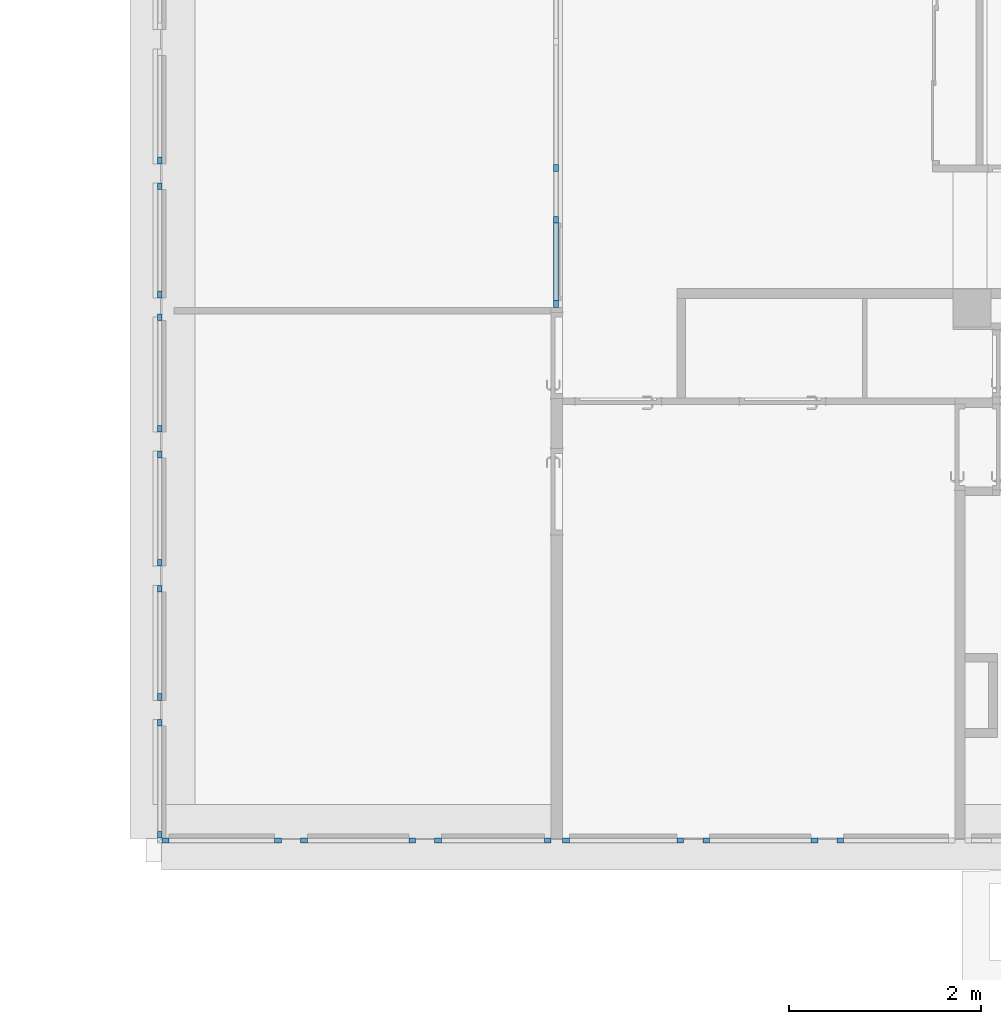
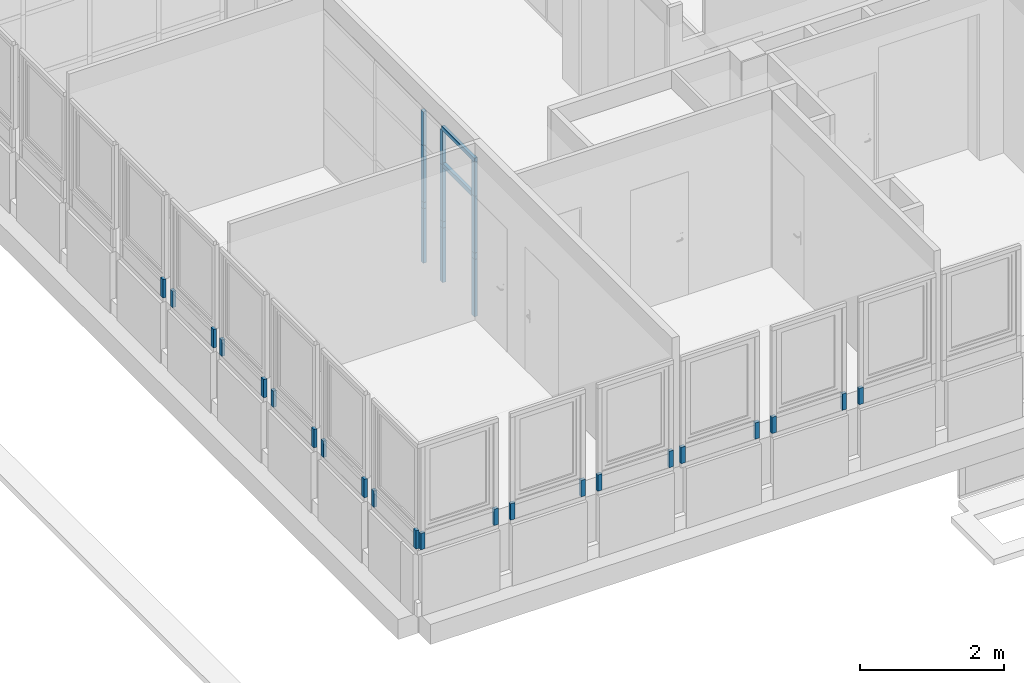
# One storey, part 14 of 97: 36 members, 13 elements without a shape of their own.
"""IFC4 building model written with IfcOpenShell, lengths in metres."""

from ifc_helpers import new_model, entity, si_unit, converted_unit, derived_unit, direction, frame, origin, place, context, subcontext, project, spatial, indexed_curve, outline, extrude, source, transform, mapped, material, type_object, type_shapes, element, aggregate, save


model = new_model("IFC4")

# Units and contexts
model_context = context("Model", 3, precision=1e-05, world=origin(), true_north=direction((6.12303176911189e-17, 1.0)))
body_context = subcontext(model_context, "Body", "Model", "MODEL_VIEW")
ifc_project = project(units=[si_unit("LENGTHUNIT", "METRE"), si_unit("AREAUNIT", "SQUARE_METRE"), si_unit("VOLUMEUNIT", "CUBIC_METRE"), converted_unit("PLANEANGLEUNIT", "DEGREE", entity("IfcRatioMeasure", 0.0174532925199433), si_unit("PLANEANGLEUNIT", "RADIAN"), dimensions=[0, 0, 0, 0, 0, 0, 0]), si_unit("MASSUNIT", "GRAM", prefix="KILO"), derived_unit("MASSDENSITYUNIT", [(si_unit("MASSUNIT", "GRAM", prefix="KILO"), 1), (si_unit("LENGTHUNIT", "METRE"), -3)]), derived_unit("MOMENTOFINERTIAUNIT", [(si_unit("LENGTHUNIT", "METRE"), 4)]), si_unit("TIMEUNIT", "SECOND"), si_unit("FREQUENCYUNIT", "HERTZ"), si_unit("THERMODYNAMICTEMPERATUREUNIT", "DEGREE_CELSIUS"), derived_unit("THERMALTRANSMITTANCEUNIT", [(si_unit("MASSUNIT", "GRAM", prefix="KILO"), 1), (si_unit("THERMODYNAMICTEMPERATUREUNIT", "KELVIN"), -1), (si_unit("TIMEUNIT", "SECOND"), -3)]), derived_unit("VOLUMETRICFLOWRATEUNIT", [(si_unit("LENGTHUNIT", "METRE"), 3), (si_unit("TIMEUNIT", "SECOND"), -1)]), si_unit("ELECTRICCURRENTUNIT", "AMPERE"), si_unit("ELECTRICVOLTAGEUNIT", "VOLT"), si_unit("POWERUNIT", "WATT"), si_unit("FORCEUNIT", "NEWTON", prefix="KILO"), si_unit("ILLUMINANCEUNIT", "LUX"), si_unit("LUMINOUSFLUXUNIT", "LUMEN"), si_unit("LUMINOUSINTENSITYUNIT", "CANDELA"), derived_unit("USERDEFINED", [(si_unit("MASSUNIT", "GRAM", prefix="KILO"), -1), (si_unit("LENGTHUNIT", "METRE"), -2), (si_unit("TIMEUNIT", "SECOND"), 3), (si_unit("LUMINOUSFLUXUNIT", "LUMEN"), 1)]), derived_unit("LINEARVELOCITYUNIT", [(si_unit("LENGTHUNIT", "METRE"), 1), (si_unit("TIMEUNIT", "SECOND"), -1)]), si_unit("PRESSUREUNIT", "PASCAL"), derived_unit("USERDEFINED", [(si_unit("LENGTHUNIT", "METRE"), -2), (si_unit("MASSUNIT", "GRAM", prefix="KILO"), 1), (si_unit("TIMEUNIT", "SECOND"), -2)]), derived_unit("LINEARFORCEUNIT", [(si_unit("MASSUNIT", "GRAM", prefix="KILO"), 1), (si_unit("LENGTHUNIT", "METRE"), 1), (si_unit("TIMEUNIT", "SECOND"), -2), (si_unit("LENGTHUNIT", "METRE"), -1)]), derived_unit("PLANARFORCEUNIT", [(si_unit("MASSUNIT", "GRAM", prefix="KILO"), 1), (si_unit("LENGTHUNIT", "METRE"), 1), (si_unit("TIMEUNIT", "SECOND"), -2), (si_unit("LENGTHUNIT", "METRE"), -2)])], contexts=[model_context])

# Site, building, storey
site_placement = place(None, origin())
site = spatial("IfcSite", under=ifc_project, at=site_placement, Name="Default", CompositionType="ELEMENT")
building_placement = place(site_placement, origin())
building = spatial("IfcBuilding", under=site, at=building_placement, Name="HOTEL CONSULAIRE BOULOGNE SUR MER", CompositionType="ELEMENT")
storey_placement = place(building_placement, frame((0.0, 0.0, 3.62152697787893)))
storey = spatial("IfcBuildingStorey", under=building, at=storey_placement, Name="Niveau 1", CompositionType="ELEMENT", Elevation=3.62152697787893)

# Curtain wall, member
curtain_wall_type = type_object("IfcCurtainWallType", Name="Mur-rideau:Simple panneau", PredefinedType="NOTDEFINED")
curtain_wall_1_placement = place(storey_placement, frame((0.0, 0.0, -3.62152697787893)))
curtain_wall_1 = element("IfcCurtainWall", 1, at=curtain_wall_1_placement, inside=storey, type_object=curtain_wall_type, Name="Mur-rideau:Simple panneau", ObjectType="Mur-rideau:Simple panneau", PredefinedType="NOTDEFINED")
ifc_material_1 = material(Name="PVC - Blanc", Category="Plastique")
member_type_1 = type_object("IfcMemberType", Name="Meneau rectangulaire:50 x 35", PredefinedType="MULLION", material=ifc_material_1)
shared_shape_1 = source(origin(), body_context, "Body", "SweptSolid", [
    extrude(outline(indexed_curve([(-0.025, -0.035), (0.025, -0.035), (0.025, 0.035), (-0.025, 0.035), (-0.025, -0.035)], self_intersect=False)), frame((-0.035, -0.025, -0.278), z_axis=(0.0, 0.0, 1.0), x_axis=(0.0, -1.0, 0.0)), (0.0, 0.0, 1.0), 0.278),
])
type_shapes(member_type_1, [shared_shape_1])
member_1_placement = place(storey_placement, frame((-13.7870998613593, -22.7114499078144, 0.861612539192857), z_axis=(0.0, 0.0, -1.0), x_axis=(0.0, 1.0, 0.0)))
member_1 = element("IfcMember", 2, at=member_1_placement, type_object=member_type_1, material=ifc_material_1, Name="Meneau rectangulaire:50 x 35", ObjectType="Meneau rectangulaire:50 x 35", PredefinedType="MULLION", context=body_context, shape_type="MappedRepresentation", body=[
    mapped(shared_shape_1, transform((0.0, 0.0, 0.0), scale=1.0)),
])

curtain_wall_2_placement = place(storey_placement, frame((0.0, 0.0, -3.62152697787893)))
curtain_wall_2 = element("IfcCurtainWall", 3, at=curtain_wall_2_placement, inside=storey, type_object=curtain_wall_type, Name="Mur-rideau:Simple panneau", ObjectType="Mur-rideau:Simple panneau", PredefinedType="NOTDEFINED")
member_2_placement = place(storey_placement, frame((-13.7870998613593, -24.0792596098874, 0.861612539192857), z_axis=(0.0, 0.0, -1.0), x_axis=(0.0, 1.0, 0.0)))
member_2 = element("IfcMember", 4, at=member_2_placement, type_object=member_type_1, material=ifc_material_1, Name="Meneau rectangulaire:50 x 35", ObjectType="Meneau rectangulaire:50 x 35", PredefinedType="MULLION", context=body_context, shape_type="MappedRepresentation", body=[
    mapped(shared_shape_1, transform((0.0, 0.0, 0.0), scale=1.0)),
])

curtain_wall_3_placement = place(storey_placement, frame((0.0, 0.0, -3.62152697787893)))
curtain_wall_3 = element("IfcCurtainWall", 5, at=curtain_wall_3_placement, inside=storey, type_object=curtain_wall_type, Name="Mur-rideau:Simple panneau", ObjectType="Mur-rideau:Simple panneau", PredefinedType="NOTDEFINED")
member_3_placement = place(storey_placement, frame((-13.7870998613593, -25.5114499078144, 0.861612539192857), z_axis=(0.0, 0.0, -1.0), x_axis=(0.0, 1.0, 0.0)))
member_3 = element("IfcMember", 6, at=member_3_placement, type_object=member_type_1, material=ifc_material_1, Name="Meneau rectangulaire:50 x 35", ObjectType="Meneau rectangulaire:50 x 35", PredefinedType="MULLION", context=body_context, shape_type="MappedRepresentation", body=[
    mapped(shared_shape_1, transform((0.0, 0.0, 0.0), scale=1.0)),
])

curtain_wall_4_placement = place(storey_placement, frame((0.0, 0.0, -3.62152697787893)))
curtain_wall_4 = element("IfcCurtainWall", 7, at=curtain_wall_4_placement, inside=storey, type_object=curtain_wall_type, Name="Mur-rideau:Simple panneau", ObjectType="Mur-rideau:Simple panneau", PredefinedType="NOTDEFINED")
member_4_placement = place(storey_placement, frame((-13.7870998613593, -28.3114499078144, 0.861612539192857), z_axis=(0.0, 0.0, -1.0), x_axis=(0.0, 1.0, 0.0)))
member_4 = element("IfcMember", 8, at=member_4_placement, type_object=member_type_1, material=ifc_material_1, Name="Meneau rectangulaire:50 x 35", ObjectType="Meneau rectangulaire:50 x 35", PredefinedType="MULLION", context=body_context, shape_type="MappedRepresentation", body=[
    mapped(shared_shape_1, transform((0.0, 0.0, 0.0), scale=1.0)),
])

curtain_wall_5_placement = place(storey_placement, frame((0.0, 0.0, -3.62152697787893)))
curtain_wall_5 = element("IfcCurtainWall", 9, at=curtain_wall_5_placement, inside=storey, type_object=curtain_wall_type, Name="Mur-rideau:Simple panneau", ObjectType="Mur-rideau:Simple panneau", PredefinedType="NOTDEFINED")
member_5_placement = place(storey_placement, frame((-13.7870998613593, -26.9114499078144, 0.861612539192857), z_axis=(0.0, 0.0, -1.0), x_axis=(0.0, 1.0, 0.0)))
member_5 = element("IfcMember", 10, at=member_5_placement, type_object=member_type_1, material=ifc_material_1, Name="Meneau rectangulaire:50 x 35", ObjectType="Meneau rectangulaire:50 x 35", PredefinedType="MULLION", context=body_context, shape_type="MappedRepresentation", body=[
    mapped(shared_shape_1, transform((0.0, 0.0, 0.0), scale=1.0)),
])

curtain_wall_6_placement = place(storey_placement, frame((0.0, 0.0, -3.62152697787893)))
curtain_wall_6 = element("IfcCurtainWall", 11, at=curtain_wall_6_placement, inside=storey, type_object=curtain_wall_type, Name="Mur-rideau:Simple panneau", ObjectType="Mur-rideau:Simple panneau", PredefinedType="NOTDEFINED")
member_6_placement = place(storey_placement, frame((-13.7870998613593, -29.5501047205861, 0.861612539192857), z_axis=(0.0, 0.0, -1.0), x_axis=(-1.0, 0.0, 0.0)))
member_6 = element("IfcMember", 12, at=member_6_placement, type_object=member_type_1, material=ifc_material_1, Name="Meneau rectangulaire:50 x 35", ObjectType="Meneau rectangulaire:50 x 35", PredefinedType="MULLION", context=body_context, shape_type="MappedRepresentation", body=[
    mapped(shared_shape_1, transform((0.0, 0.0, 0.0), scale=1.0)),
])

curtain_wall_7_placement = place(storey_placement, frame((0.0, 0.0, -3.62152697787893)))
curtain_wall_7 = element("IfcCurtainWall", 13, at=curtain_wall_7_placement, inside=storey, type_object=curtain_wall_type, Name="Mur-rideau:Simple panneau", ObjectType="Mur-rideau:Simple panneau", PredefinedType="NOTDEFINED")
member_7_placement = place(storey_placement, frame((-12.3414199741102, -29.5501047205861, 0.861612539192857), z_axis=(0.0, 0.0, -1.0), x_axis=(-1.0, 0.0, 0.0)))
member_7 = element("IfcMember", 14, at=member_7_placement, type_object=member_type_1, material=ifc_material_1, Name="Meneau rectangulaire:50 x 35", ObjectType="Meneau rectangulaire:50 x 35", PredefinedType="MULLION", context=body_context, shape_type="MappedRepresentation", body=[
    mapped(shared_shape_1, transform((0.0, 0.0, 0.0), scale=1.0)),
])

curtain_wall_8_placement = place(storey_placement, frame((0.0, 0.0, -3.62152697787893)))
curtain_wall_8 = element("IfcCurtainWall", 15, at=curtain_wall_8_placement, inside=storey, type_object=curtain_wall_type, Name="Mur-rideau:Simple panneau", ObjectType="Mur-rideau:Simple panneau", PredefinedType="NOTDEFINED")
member_8_placement = place(storey_placement, frame((-10.9414199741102, -29.5501047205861, 0.861612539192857), z_axis=(0.0, 0.0, -1.0), x_axis=(-1.0, 0.0, 0.0)))
member_8 = element("IfcMember", 16, at=member_8_placement, type_object=member_type_1, material=ifc_material_1, Name="Meneau rectangulaire:50 x 35", ObjectType="Meneau rectangulaire:50 x 35", PredefinedType="MULLION", context=body_context, shape_type="MappedRepresentation", body=[
    mapped(shared_shape_1, transform((0.0, 0.0, 0.0), scale=1.0)),
])

curtain_wall_9_placement = place(storey_placement, frame((0.0, 0.0, -3.62152697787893)))
curtain_wall_9 = element("IfcCurtainWall", 17, at=curtain_wall_9_placement, inside=storey, type_object=curtain_wall_type, Name="Mur-rideau:Simple panneau", ObjectType="Mur-rideau:Simple panneau", PredefinedType="NOTDEFINED")
member_9_placement = place(storey_placement, frame((-9.60440198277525, -29.5501047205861, 0.861612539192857), z_axis=(0.0, 0.0, -1.0), x_axis=(-1.0, 0.0, 0.0)))
member_9 = element("IfcMember", 18, at=member_9_placement, type_object=member_type_1, material=ifc_material_1, Name="Meneau rectangulaire:50 x 35", ObjectType="Meneau rectangulaire:50 x 35", PredefinedType="MULLION", context=body_context, shape_type="MappedRepresentation", body=[
    mapped(shared_shape_1, transform((0.0, 0.0, 0.0), scale=1.0)),
])

curtain_wall_10_placement = place(storey_placement, frame((0.0, 0.0, -3.62152697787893)))
curtain_wall_10 = element("IfcCurtainWall", 19, at=curtain_wall_10_placement, inside=storey, type_object=curtain_wall_type, Name="Mur-rideau:Simple panneau", ObjectType="Mur-rideau:Simple panneau", PredefinedType="NOTDEFINED")
member_10_placement = place(storey_placement, frame((-8.14141997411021, -29.5501047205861, 0.861612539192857), z_axis=(0.0, 0.0, -1.0), x_axis=(-1.0, 0.0, 0.0)))
member_10 = element("IfcMember", 20, at=member_10_placement, type_object=member_type_1, material=ifc_material_1, Name="Meneau rectangulaire:50 x 35", ObjectType="Meneau rectangulaire:50 x 35", PredefinedType="MULLION", context=body_context, shape_type="MappedRepresentation", body=[
    mapped(shared_shape_1, transform((0.0, 0.0, 0.0), scale=1.0)),
])

curtain_wall_11_placement = place(storey_placement, frame((0.0, 0.0, -3.62152697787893)))
curtain_wall_11 = element("IfcCurtainWall", 21, at=curtain_wall_11_placement, inside=storey, type_object=curtain_wall_type, Name="Mur-rideau:Simple panneau", ObjectType="Mur-rideau:Simple panneau", PredefinedType="NOTDEFINED")
member_11_placement = place(storey_placement, frame((-6.74141997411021, -29.5501047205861, 0.861612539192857), z_axis=(0.0, 0.0, -1.0), x_axis=(-1.0, 0.0, 0.0)))
member_11 = element("IfcMember", 22, at=member_11_placement, type_object=member_type_1, material=ifc_material_1, Name="Meneau rectangulaire:50 x 35", ObjectType="Meneau rectangulaire:50 x 35", PredefinedType="MULLION", context=body_context, shape_type="MappedRepresentation", body=[
    mapped(shared_shape_1, transform((0.0, 0.0, 0.0), scale=1.0)),
])
aggregate(curtain_wall_11, [member_11])

curtain_wall_12_placement = place(storey_placement, frame((0.0, 0.0, -3.62152697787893)))
curtain_wall_12 = element("IfcCurtainWall", 23, at=curtain_wall_12_placement, inside=storey, type_object=curtain_wall_type, Name="Mur-rideau:Simple panneau", ObjectType="Mur-rideau:Simple panneau", PredefinedType="NOTDEFINED")
member_type_2 = type_object("IfcMemberType", Name="Meneau rectangulaire:50 x 35", PredefinedType="MULLION", material=ifc_material_1)
shared_shape_2 = source(origin(), body_context, "Body", "SweptSolid", [
    extrude(outline(indexed_curve([(-0.025, -0.035), (0.025, -0.035), (0.025, 0.035), (-0.025, 0.035), (-0.025, -0.035)], self_intersect=False)), frame((-0.035, -0.025, -0.313), z_axis=(0.0, 0.0, 1.0), x_axis=(0.0, -1.0, 0.0)), (0.0, 0.0, 1.0), 0.313),
])
type_shapes(member_type_2, [shared_shape_2])
member_12_placement = place(storey_placement, frame((-13.7870998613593, -22.5114499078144, 1.17461253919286), z_axis=(0.0, 0.0, 1.0), x_axis=(0.0, -1.0, 0.0)))
member_12 = element("IfcMember", 24, at=member_12_placement, type_object=member_type_2, material=ifc_material_1, Name="Meneau rectangulaire:50 x 35", ObjectType="Meneau rectangulaire:50 x 35", PredefinedType="MULLION", context=body_context, shape_type="MappedRepresentation", body=[
    mapped(shared_shape_2, transform((0.0, 0.0, 0.0), scale=1.0)),
])
aggregate(curtain_wall_12, [member_12])

# Member
member_13_placement = place(storey_placement, frame((-13.7870998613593, -23.9114499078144, 1.17461253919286), z_axis=(0.0, 0.0, 1.0), x_axis=(0.0, -1.0, 0.0)))
member_13 = element("IfcMember", 25, at=member_13_placement, type_object=member_type_2, material=ifc_material_1, Name="Meneau rectangulaire:50 x 35", ObjectType="Meneau rectangulaire:50 x 35", PredefinedType="MULLION", context=body_context, shape_type="MappedRepresentation", body=[
    mapped(shared_shape_2, transform((0.0, 0.0, 0.0), scale=1.0)),
])

aggregate(curtain_wall_1, [member_1, member_13])

member_14_placement = place(storey_placement, frame((-13.7870998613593, -25.3114499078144, 1.17461253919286), z_axis=(0.0, 0.0, 1.0), x_axis=(0.0, -1.0, 0.0)))
member_14 = element("IfcMember", 26, at=member_14_placement, type_object=member_type_2, material=ifc_material_1, Name="Meneau rectangulaire:50 x 35", ObjectType="Meneau rectangulaire:50 x 35", PredefinedType="MULLION", context=body_context, shape_type="MappedRepresentation", body=[
    mapped(shared_shape_2, transform((0.0, 0.0, 0.0), scale=1.0)),
])

aggregate(curtain_wall_2, [member_2, member_14])

member_15_placement = place(storey_placement, frame((-13.7870998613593, -26.7114499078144, 1.17461253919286), z_axis=(0.0, 0.0, 1.0), x_axis=(0.0, -1.0, 0.0)))
member_15 = element("IfcMember", 27, at=member_15_placement, type_object=member_type_2, material=ifc_material_1, Name="Meneau rectangulaire:50 x 35", ObjectType="Meneau rectangulaire:50 x 35", PredefinedType="MULLION", context=body_context, shape_type="MappedRepresentation", body=[
    mapped(shared_shape_2, transform((0.0, 0.0, 0.0), scale=1.0)),
])

aggregate(curtain_wall_3, [member_3, member_15])

member_16_placement = place(storey_placement, frame((-13.7870998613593, -29.5501047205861, 1.17461253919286), z_axis=(0.0, 0.0, 1.0), x_axis=(0.0, -1.0, 0.0)))
member_16 = element("IfcMember", 28, at=member_16_placement, type_object=member_type_2, material=ifc_material_1, Name="Meneau rectangulaire:50 x 35", ObjectType="Meneau rectangulaire:50 x 35", PredefinedType="MULLION", context=body_context, shape_type="MappedRepresentation", body=[
    mapped(shared_shape_2, transform((0.0, 0.0, 0.0), scale=1.0)),
])

aggregate(curtain_wall_4, [member_4, member_16])

member_17_placement = place(storey_placement, frame((-13.7870998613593, -28.1114499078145, 1.17461253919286), z_axis=(0.0, 0.0, 1.0), x_axis=(0.0, -1.0, 0.0)))
member_17 = element("IfcMember", 29, at=member_17_placement, type_object=member_type_2, material=ifc_material_1, Name="Meneau rectangulaire:50 x 35", ObjectType="Meneau rectangulaire:50 x 35", PredefinedType="MULLION", context=body_context, shape_type="MappedRepresentation", body=[
    mapped(shared_shape_2, transform((0.0, 0.0, 0.0), scale=1.0)),
])

aggregate(curtain_wall_5, [member_5, member_17])

member_type_3 = type_object("IfcMemberType", Name="Meneau rectangulaire:50 x 35", PredefinedType="MULLION", material=ifc_material_1)
shared_shape_3 = source(origin(), body_context, "Body", "SweptSolid", [
    extrude(outline(indexed_curve([(-0.025, -0.035), (0.025, -0.035), (0.025, 0.035), (-0.025, 0.035), (-0.025, -0.035)], self_intersect=False)), frame((-0.035, -0.025, -0.278), z_axis=(0.0, 0.0, 1.0), x_axis=(0.0, -1.0, 0.0)), (0.0, 0.0, 1.0), 0.278),
])
type_shapes(member_type_3, [shared_shape_3])
member_18_placement = place(storey_placement, frame((-12.5414199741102, -29.5501047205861, 1.13961253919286)))
member_18 = element("IfcMember", 30, at=member_18_placement, type_object=member_type_3, material=ifc_material_1, Name="Meneau rectangulaire:50 x 35", ObjectType="Meneau rectangulaire:50 x 35", PredefinedType="MULLION", context=body_context, shape_type="MappedRepresentation", body=[
    mapped(shared_shape_3, transform((0.0, 0.0, 0.0), scale=1.0)),
])

aggregate(curtain_wall_6, [member_6, member_18])

member_19_placement = place(storey_placement, frame((-11.1414199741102, -29.5501047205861, 1.13961253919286)))
member_19 = element("IfcMember", 31, at=member_19_placement, type_object=member_type_3, material=ifc_material_1, Name="Meneau rectangulaire:50 x 35", ObjectType="Meneau rectangulaire:50 x 35", PredefinedType="MULLION", context=body_context, shape_type="MappedRepresentation", body=[
    mapped(shared_shape_3, transform((0.0, 0.0, 0.0), scale=1.0)),
])

aggregate(curtain_wall_7, [member_7, member_19])

member_20_placement = place(storey_placement, frame((-9.72440198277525, -29.5501047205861, 1.13961253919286)))
member_20 = element("IfcMember", 32, at=member_20_placement, type_object=member_type_3, material=ifc_material_1, Name="Meneau rectangulaire:50 x 35", ObjectType="Meneau rectangulaire:50 x 35", PredefinedType="MULLION", context=body_context, shape_type="MappedRepresentation", body=[
    mapped(shared_shape_3, transform((0.0, 0.0, 0.0), scale=1.0)),
])

aggregate(curtain_wall_8, [member_8, member_20])

member_21_placement = place(storey_placement, frame((-8.3414199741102, -29.5501047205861, 1.13961253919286)))
member_21 = element("IfcMember", 33, at=member_21_placement, type_object=member_type_3, material=ifc_material_1, Name="Meneau rectangulaire:50 x 35", ObjectType="Meneau rectangulaire:50 x 35", PredefinedType="MULLION", context=body_context, shape_type="MappedRepresentation", body=[
    mapped(shared_shape_3, transform((0.0, 0.0, 0.0), scale=1.0)),
])

aggregate(curtain_wall_9, [member_9, member_21])

member_22_placement = place(storey_placement, frame((-6.94141997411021, -29.5501047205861, 1.13961253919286)))
member_22 = element("IfcMember", 34, at=member_22_placement, type_object=member_type_3, material=ifc_material_1, Name="Meneau rectangulaire:50 x 35", ObjectType="Meneau rectangulaire:50 x 35", PredefinedType="MULLION", context=body_context, shape_type="MappedRepresentation", body=[
    mapped(shared_shape_3, transform((0.0, 0.0, 0.0), scale=1.0)),
])

aggregate(curtain_wall_10, [member_10, member_22])

# Curtain wall, members
curtain_wall_13_placement = place(storey_placement, frame((0.0, 0.0, -3.62152697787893)))
curtain_wall_13 = element("IfcCurtainWall", 35, at=curtain_wall_13_placement, inside=storey, type_object=curtain_wall_type, Name="Mur-rideau:Simple panneau", ObjectType="Mur-rideau:Simple panneau", PredefinedType="NOTDEFINED")
ifc_material_2 = material(Name="PVC, souple", Category="Plastique")
member_type_4 = type_object("IfcMemberType", Name="Meneau rectangulaire:50 x 35 pvc gris", PredefinedType="MULLION", material=ifc_material_2)
shared_shape_4 = source(origin(), body_context, "Body", "SweptSolid", [
    extrude(outline(indexed_curve([(-0.025, -0.035), (0.025, -0.035), (0.025, 0.035), (-0.025, 0.035), (-0.025, -0.035)], self_intersect=False)), frame((-0.035, -0.025, -0.581), z_axis=(0.0, 0.0, 1.0), x_axis=(0.0, -1.0, 0.0)), (0.0, 0.0, 1.0), 0.581),
])
type_shapes(member_type_4, [shared_shape_4])
member_23_placement = place(storey_placement, frame((-9.64962464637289, -24.0092596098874, 2.62696046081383), z_axis=(0.0, 0.0, 1.0), x_axis=(0.0, -1.0, 0.0)))
member_23 = element("IfcMember", 36, at=member_23_placement, type_object=member_type_4, material=ifc_material_2, Name="Meneau rectangulaire:50 x 35 pvc gris", ObjectType="Meneau rectangulaire:50 x 35 pvc gris", PredefinedType="MULLION", context=body_context, shape_type="MappedRepresentation", body=[
    mapped(shared_shape_4, transform((0.0, 0.0, 0.0), scale=1.0)),
])
member_type_5 = type_object("IfcMemberType", Name="Meneau rectangulaire:50 x 35 pvc gris", PredefinedType="MULLION", material=ifc_material_2)
shared_shape_5 = source(origin(), body_context, "Body", "SweptSolid", [
    extrude(outline(indexed_curve([(-0.025, -0.035), (0.025, -0.035), (0.025, 0.035), (-0.025, 0.035), (-0.025, -0.035)], self_intersect=False)), frame((-0.035, -0.025, -0.964), z_axis=(0.0, 0.0, 1.0), x_axis=(0.0, -1.0, 0.0)), (0.0, 0.0, 1.0), 0.964),
])
type_shapes(member_type_5, [shared_shape_5])
member_24_placement = place(storey_placement, frame((-9.64962464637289, -24.0092596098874, 2.04596046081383), z_axis=(0.0, 0.0, 1.0), x_axis=(0.0, -1.0, 0.0)))
member_24 = element("IfcMember", 37, at=member_24_placement, type_object=member_type_5, material=ifc_material_2, Name="Meneau rectangulaire:50 x 35 pvc gris", ObjectType="Meneau rectangulaire:50 x 35 pvc gris", PredefinedType="MULLION", context=body_context, shape_type="MappedRepresentation", body=[
    mapped(shared_shape_5, transform((0.0, 0.0, 0.0), scale=1.0)),
])
member_type_6 = type_object("IfcMemberType", Name="Meneau rectangulaire:50 x 35 pvc gris", PredefinedType="MULLION", material=ifc_material_2)
shared_shape_6 = source(origin(), body_context, "Body", "SweptSolid", [
    extrude(outline(indexed_curve([(-0.025, -0.035), (0.025, -0.035), (0.025, 0.035), (-0.025, 0.035), (-0.025, -0.035)], self_intersect=False)), frame((-0.035, -0.025, -0.976960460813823), z_axis=(0.0, 0.0, 1.0), x_axis=(0.0, -1.0, 0.0)), (0.0, 0.0, 1.0), 0.976960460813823),
])
type_shapes(member_type_6, [shared_shape_6])
member_25_placement = place(storey_placement, frame((-9.64962464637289, -24.0092596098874, 0.976960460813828), z_axis=(0.0, 0.0, 1.0), x_axis=(0.0, -1.0, 0.0)))
member_25 = element("IfcMember", 38, at=member_25_placement, type_object=member_type_6, material=ifc_material_2, Name="Meneau rectangulaire:50 x 35 pvc gris", ObjectType="Meneau rectangulaire:50 x 35 pvc gris", PredefinedType="MULLION", context=body_context, shape_type="MappedRepresentation", body=[
    mapped(shared_shape_6, transform((0.0, 0.0, 0.0), scale=1.0)),
])
member_type_7 = type_object("IfcMemberType", Name="Meneau rectangulaire:50 x 35 pvc gris", PredefinedType="MULLION", material=ifc_material_2)
shared_shape_7 = source(origin(), body_context, "Body", "SweptSolid", [
    extrude(outline(indexed_curve([(-0.025, -0.035), (0.025, -0.035), (0.025, 0.035), (-0.025, 0.035), (-0.025, -0.035)], self_intersect=False)), frame((-0.035, -0.025, -0.105), z_axis=(0.0, 0.0, 1.0), x_axis=(0.0, -1.0, 0.0)), (0.0, 0.0, 1.0), 0.105),
])
type_shapes(member_type_7, [shared_shape_7])
member_26_placement = place(storey_placement, frame((-9.64962464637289, -24.0092596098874, 1.08196046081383), z_axis=(0.0, 0.0, 1.0), x_axis=(0.0, -1.0, 0.0)))
member_26 = element("IfcMember", 39, at=member_26_placement, type_object=member_type_7, material=ifc_material_2, Name="Meneau rectangulaire:50 x 35 pvc gris", ObjectType="Meneau rectangulaire:50 x 35 pvc gris", PredefinedType="MULLION", context=body_context, shape_type="MappedRepresentation", body=[
    mapped(shared_shape_7, transform((0.0, 0.0, 0.0), scale=1.0)),
])
member_type_8 = type_object("IfcMemberType", Name="Meneau rectangulaire:50 x 35 pvc gris", PredefinedType="MULLION", material=ifc_material_2)
shared_shape_8 = source(origin(), body_context, "Body", "SweptSolid", [
    extrude(outline(indexed_curve([(-0.025, -0.035), (0.025, -0.035), (0.025, 0.035), (-0.025, 0.035), (-0.025, -0.035)], self_intersect=False)), frame((0.0, -0.025, -0.926960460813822), z_axis=(0.0, 0.0, 1.0), x_axis=(0.0, -1.0, 0.0)), (0.0, 0.0, 1.0), 0.926960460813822),
])
type_shapes(member_type_8, [shared_shape_8])
member_27_placement = place(storey_placement, frame((-9.64962464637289, -23.0962596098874, 0.050000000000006), z_axis=(0.0, 0.0, -1.0), x_axis=(0.0, 1.0, 0.0)))
member_27 = element("IfcMember", 40, at=member_27_placement, type_object=member_type_8, material=ifc_material_2, Name="Meneau rectangulaire:50 x 35 pvc gris", ObjectType="Meneau rectangulaire:50 x 35 pvc gris", PredefinedType="MULLION", context=body_context, shape_type="MappedRepresentation", body=[
    mapped(shared_shape_8, transform((0.0, 0.0, 0.0), scale=1.0)),
])
member_type_9 = type_object("IfcMemberType", Name="Meneau rectangulaire:50 x 35 pvc gris", PredefinedType="MULLION", material=ifc_material_2)
shared_shape_9 = source(origin(), body_context, "Body", "SweptSolid", [
    extrude(outline(indexed_curve([(-0.025, -0.035), (0.025, -0.035), (0.025, 0.035), (-0.025, 0.035), (-0.025, -0.035)], self_intersect=False)), frame((0.0, -0.025, -0.105), z_axis=(0.0, 0.0, 1.0), x_axis=(0.0, -1.0, 0.0)), (0.0, 0.0, 1.0), 0.105),
])
type_shapes(member_type_9, [shared_shape_9])
member_28_placement = place(storey_placement, frame((-9.64962464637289, -23.0962596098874, 0.976960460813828), z_axis=(0.0, 0.0, -1.0), x_axis=(0.0, 1.0, 0.0)))
member_28 = element("IfcMember", 41, at=member_28_placement, type_object=member_type_9, material=ifc_material_2, Name="Meneau rectangulaire:50 x 35 pvc gris", ObjectType="Meneau rectangulaire:50 x 35 pvc gris", PredefinedType="MULLION", context=body_context, shape_type="MappedRepresentation", body=[
    mapped(shared_shape_9, transform((0.0, 0.0, 0.0), scale=1.0)),
])
member_type_10 = type_object("IfcMemberType", Name="Meneau rectangulaire:50 x 35 pvc gris", PredefinedType="MULLION", material=ifc_material_2)
shared_shape_10 = source(origin(), body_context, "Body", "SweptSolid", [
    extrude(outline(indexed_curve([(-0.025, -0.035), (0.025, -0.035), (0.025, 0.035), (-0.025, 0.035), (-0.025, -0.035)], self_intersect=False)), frame((0.0, -0.025, -0.964), z_axis=(0.0, 0.0, 1.0), x_axis=(0.0, -1.0, 0.0)), (0.0, 0.0, 1.0), 0.964),
])
type_shapes(member_type_10, [shared_shape_10])
member_29_placement = place(storey_placement, frame((-9.64962464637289, -23.0962596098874, 1.08196046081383), z_axis=(0.0, 0.0, -1.0), x_axis=(0.0, 1.0, 0.0)))
member_29 = element("IfcMember", 42, at=member_29_placement, type_object=member_type_10, material=ifc_material_2, Name="Meneau rectangulaire:50 x 35 pvc gris", ObjectType="Meneau rectangulaire:50 x 35 pvc gris", PredefinedType="MULLION", context=body_context, shape_type="MappedRepresentation", body=[
    mapped(shared_shape_10, transform((0.0, 0.0, 0.0), scale=1.0)),
])
member_30_placement = place(storey_placement, frame((-9.64962464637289, -22.5552596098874, 1.08196046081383), z_axis=(0.0, 0.0, -1.0), x_axis=(0.0, 1.0, 0.0)))
member_30 = element("IfcMember", 43, at=member_30_placement, type_object=member_type_10, material=ifc_material_2, Name="Meneau rectangulaire:50 x 35 pvc gris", ObjectType="Meneau rectangulaire:50 x 35 pvc gris", PredefinedType="MULLION", context=body_context, shape_type="MappedRepresentation", body=[
    mapped(shared_shape_10, transform((0.0, 0.0, 0.0), scale=1.0)),
])
member_type_11 = type_object("IfcMemberType", Name="Meneau rectangulaire:50 x 35 pvc gris", PredefinedType="MULLION", material=ifc_material_2)
shared_shape_11 = source(origin(), body_context, "Body", "SweptSolid", [
    extrude(outline(indexed_curve([(-0.025, -0.035), (0.025, -0.035), (0.025, 0.035), (-0.025, 0.035), (-0.025, -0.035)], self_intersect=False)), frame((0.0, -0.025, -0.581), z_axis=(0.0, 0.0, 1.0), x_axis=(0.0, -1.0, 0.0)), (0.0, 0.0, 1.0), 0.581),
])
type_shapes(member_type_11, [shared_shape_11])
member_31_placement = place(storey_placement, frame((-9.64962464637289, -23.0962596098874, 2.04596046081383), z_axis=(0.0, 0.0, -1.0), x_axis=(0.0, 1.0, 0.0)))
member_31 = element("IfcMember", 44, at=member_31_placement, type_object=member_type_11, material=ifc_material_2, Name="Meneau rectangulaire:50 x 35 pvc gris", ObjectType="Meneau rectangulaire:50 x 35 pvc gris", PredefinedType="MULLION", context=body_context, shape_type="MappedRepresentation", body=[
    mapped(shared_shape_11, transform((0.0, 0.0, 0.0), scale=1.0)),
])
member_32_placement = place(storey_placement, frame((-9.64962464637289, -22.5552596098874, 2.04596046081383), z_axis=(0.0, 0.0, -1.0), x_axis=(0.0, 1.0, 0.0)))
member_32 = element("IfcMember", 45, at=member_32_placement, type_object=member_type_11, material=ifc_material_2, Name="Meneau rectangulaire:50 x 35 pvc gris", ObjectType="Meneau rectangulaire:50 x 35 pvc gris", PredefinedType="MULLION", context=body_context, shape_type="MappedRepresentation", body=[
    mapped(shared_shape_11, transform((0.0, 0.0, 0.0), scale=1.0)),
])
member_type_12 = type_object("IfcMemberType", Name="Meneau rectangulaire:50 x 35 pvc gris", PredefinedType="MULLION", material=ifc_material_2)
shared_shape_12 = source(origin(), body_context, "Body", "SweptSolid", [
    extrude(outline(indexed_curve([(-0.025, -0.035), (0.025, -0.035), (0.025, 0.035), (-0.025, 0.035), (-0.025, -0.035)], self_intersect=False)), frame((0.0, -0.025, -0.105), z_axis=(0.0, 0.0, 1.0), x_axis=(0.0, -1.0, 0.0)), (0.0, 0.0, 1.0), 0.105),
])
type_shapes(member_type_12, [shared_shape_12])
member_33_placement = place(storey_placement, frame((-9.64962464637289, -22.5552596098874, 0.976960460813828), z_axis=(0.0, 0.0, -1.0), x_axis=(0.0, 1.0, 0.0)))
member_33 = element("IfcMember", 46, at=member_33_placement, type_object=member_type_12, material=ifc_material_2, Name="Meneau rectangulaire:50 x 35 pvc gris", ObjectType="Meneau rectangulaire:50 x 35 pvc gris", PredefinedType="MULLION", context=body_context, shape_type="MappedRepresentation", body=[
    mapped(shared_shape_12, transform((0.0, 0.0, 0.0), scale=1.0)),
])
member_type_13 = type_object("IfcMemberType", Name="Meneau rectangulaire:50 x 35 pvc gris", PredefinedType="MULLION", material=ifc_material_2)
shared_shape_13 = source(origin(), body_context, "Body", "SweptSolid", [
    extrude(outline(indexed_curve([(-0.025, -0.035), (0.025, -0.035), (0.025, 0.035), (-0.025, 0.035), (-0.025, -0.035)], self_intersect=False)), frame((0.0, -0.025, -0.926960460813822), z_axis=(0.0, 0.0, 1.0), x_axis=(0.0, -1.0, 0.0)), (0.0, 0.0, 1.0), 0.926960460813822),
])
type_shapes(member_type_13, [shared_shape_13])
member_34_placement = place(storey_placement, frame((-9.64962464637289, -22.5552596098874, 0.050000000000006), z_axis=(0.0, 0.0, -1.0), x_axis=(0.0, 1.0, 0.0)))
member_34 = element("IfcMember", 47, at=member_34_placement, type_object=member_type_13, material=ifc_material_2, Name="Meneau rectangulaire:50 x 35 pvc gris", ObjectType="Meneau rectangulaire:50 x 35 pvc gris", PredefinedType="MULLION", context=body_context, shape_type="MappedRepresentation", body=[
    mapped(shared_shape_13, transform((0.0, 0.0, 0.0), scale=1.0)),
])
member_type_14 = type_object("IfcMemberType", Name="Meneau rectangulaire:50 x 35 pvc gris", PredefinedType="MULLION", material=ifc_material_2)
shared_shape_14 = source(origin(), body_context, "Body", "SweptSolid", [
    extrude(outline(indexed_curve([(-0.025, -0.035), (0.025, -0.035), (0.025, 0.035), (-0.025, 0.035), (-0.025, -0.035)], self_intersect=False)), frame((0.0, -0.025, -0.807999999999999), z_axis=(0.0, 0.0, 1.0), x_axis=(0.0, -1.0, 0.0)), (0.0, 0.0, 1.0), 0.808),
])
type_shapes(member_type_14, [shared_shape_14])
member_35_placement = place(storey_placement, frame((-9.64962464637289, -23.1312596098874, 2.04596046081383), z_axis=(0.0, 1.0, 0.0), x_axis=(0.0, 0.0, 1.0)))
member_35 = element("IfcMember", 48, at=member_35_placement, type_object=member_type_14, material=ifc_material_2, Name="Meneau rectangulaire:50 x 35 pvc gris", ObjectType="Meneau rectangulaire:50 x 35 pvc gris", PredefinedType="MULLION", context=body_context, shape_type="MappedRepresentation", body=[
    mapped(shared_shape_14, transform((0.0, 0.0, 0.0), scale=1.0)),
])
member_type_15 = type_object("IfcMemberType", Name="Meneau rectangulaire:50 x 35 pvc gris", PredefinedType="MULLION", material=ifc_material_2)
shared_shape_15 = source(origin(), body_context, "Body", "SweptSolid", [
    extrude(outline(indexed_curve([(-0.025, -0.035), (0.025, -0.035), (0.025, 0.035), (-0.025, 0.035), (-0.025, -0.035)], self_intersect=False)), frame((-0.035, -0.025, -0.913), z_axis=(0.0, 0.0, 1.0), x_axis=(0.0, -1.0, 0.0)), (0.0, 0.0, 1.0), 0.913),
])
type_shapes(member_type_15, [shared_shape_15])
member_36_placement = place(storey_placement, frame((-9.64962464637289, -23.0962596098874, 2.69696046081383), z_axis=(0.0, 1.0, 0.0), x_axis=(0.0, 0.0, 1.0)))
member_36 = element("IfcMember", 49, at=member_36_placement, type_object=member_type_15, material=ifc_material_2, Name="Meneau rectangulaire:50 x 35 pvc gris", ObjectType="Meneau rectangulaire:50 x 35 pvc gris", PredefinedType="MULLION", context=body_context, shape_type="MappedRepresentation", body=[
    mapped(shared_shape_15, transform((0.0, 0.0, 0.0), scale=1.0)),
])
aggregate(curtain_wall_13, [member_23, member_24, member_25, member_26, member_27, member_28, member_29, member_31, member_32, member_30, member_33, member_34, member_35, member_36])

save(model, "model.ifc")
